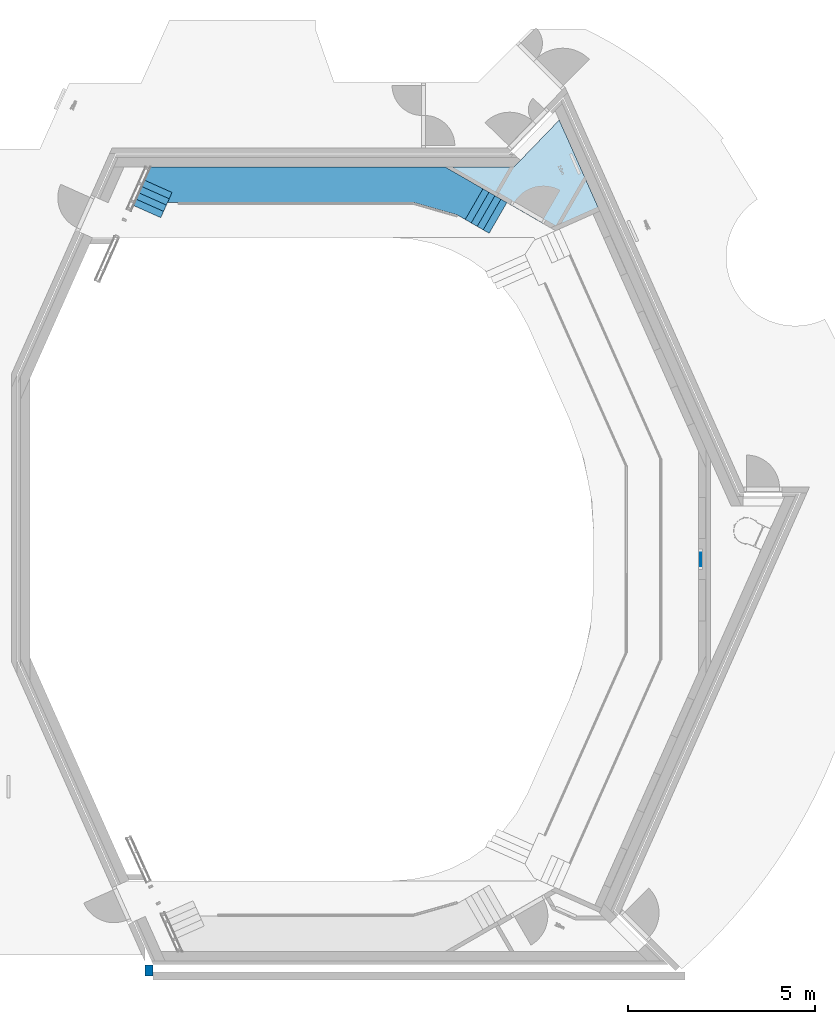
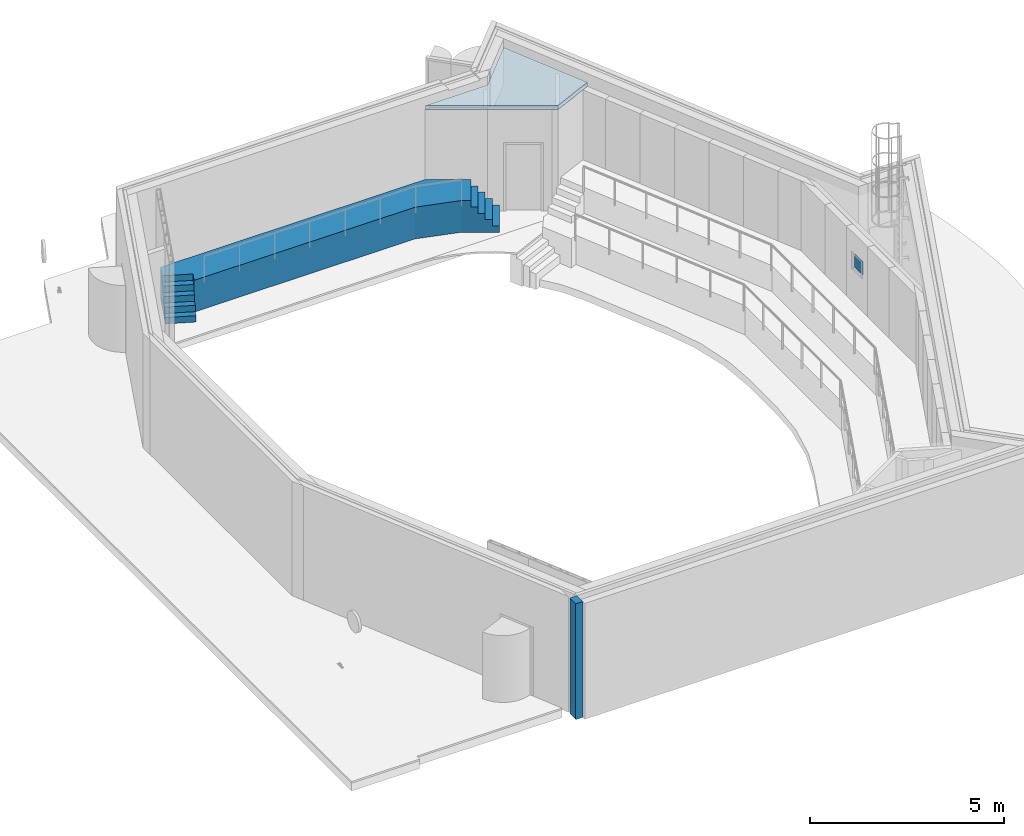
# One storey, part 5 of 16: 2 slabs, 1 plate, 1 wall, 1 element without a shape of its own.
"""IFC2X3 building model written with IfcOpenShell, lengths in millimetres."""

import ifcopenshell
import ifcopenshell.guid

model = None  # the IFC model being written
_history = None  # IfcOwnerHistory: only IFC2X3 demands one
_inside = {}  # id of a spatial element -> (the spatial element, [elements in it])
_under = {}  # id of a project, library or spatial element -> (it, [spatial elements below it])
_declared = {}  # id of a project -> (the project, [libraries it declares])
_typed = {}  # id of a type object -> (the type object, [elements of that type])
_made_of = {}  # id of a material, layer set ... -> (it, [elements and type objects made of it])


def new_model(schema):
    """Start an empty IFC model of exactly this schema.

    Asked for "IFC4X3", IfcOpenShell would pick the latest addendum, in which some entities
    have other attributes; the version numbers below select the first issue.
    IFC2X3 requires an IfcOwnerHistory on every rooted entity: one is made here for all.
    """
    global model, _history
    if schema == "IFC4X3":
        model = ifcopenshell.file(schema_version=(4, 3, 0, 0))
    else:
        model = ifcopenshell.file(schema=schema)
    _inside.clear()
    _under.clear()
    _declared.clear()
    _typed.clear()
    _made_of.clear()
    _history = None
    if model.schema == "IFC2X3":
        org = make("IfcOrganization", Name="unknown")
        user = make(
            "IfcPersonAndOrganization",
            ThePerson=make("IfcPerson", FamilyName="unknown"),
            TheOrganization=org,
        )
        app = make(
            "IfcApplication",
            ApplicationDeveloper=org,
            Version="unknown",
            ApplicationFullName="unknown",
            ApplicationIdentifier="unknown",
        )
        _history = make(
            "IfcOwnerHistory",
            OwningUser=user,
            OwningApplication=app,
            ChangeAction="ADDED",
            CreationDate=0,
        )
    return model


def make(cls, **values):
    """One entity of the class cls with the attributes given. An attribute that is None is left unset."""
    return model.create_entity(
        cls, **{name: value for name, value in values.items() if value is not None}
    )


def entity(cls, *values):
    """Any entity or typed value of the class cls, its attributes in the order of the schema. None: left unset."""
    e = model.create_entity(cls)
    for i, value in enumerate(values):
        if value is not None:
            e[i] = value
    return e


def rooted(cls, **values):
    """An entity with a GlobalId (a new one), such as an element, a storey or a relation."""
    return make(cls, GlobalId=ifcopenshell.guid.new(), OwnerHistory=_history, **values)


def si_unit(unit_type, name, prefix=None):
    """IfcSIUnit, for example si_unit("LENGTHUNIT", "METRE", prefix="MILLI")."""
    return make("IfcSIUnit", UnitType=unit_type, Prefix=prefix, Name=name)


def converted_unit(unit_type, name, factor, base, dimensions=None, offset=None):
    """IfcConversionBasedUnit, such as the inch: factor (a typed value) times the base unit."""
    return make(
        "IfcConversionBasedUnit"
        if offset is None
        else "IfcConversionBasedUnitWithOffset",
        ConversionOffset=offset,
        Dimensions=None
        if dimensions is None
        else entity("IfcDimensionalExponents", *dimensions),
        UnitType=unit_type,
        Name=name,
        ConversionFactor=make(
            "IfcMeasureWithUnit", ValueComponent=factor, UnitComponent=base
        ),
    )


def derived_unit(unit_type, elements):
    """IfcDerivedUnit: a product of units, each with its exponent."""
    return make(
        "IfcDerivedUnit",
        Elements=[
            make("IfcDerivedUnitElement", Unit=unit, Exponent=power)
            for unit, power in elements
        ],
        UnitType=unit_type,
    )


def assignment(units):
    """IfcUnitAssignment: the units of a project."""
    return None if units is None else make("IfcUnitAssignment", Units=units)


def point(xyz):
    """IfcCartesianPoint."""
    return None if xyz is None else make("IfcCartesianPoint", Coordinates=xyz)


def direction(xyz):
    """IfcDirection."""
    return None if xyz is None else make("IfcDirection", DirectionRatios=xyz)


def frame(location, z_axis=None, x_axis=None):
    """IfcAxis2Placement3D, a coordinate frame: its origin and axes. An axis left out is left unset."""
    return make(
        "IfcAxis2Placement3D",
        Location=point(location),
        Axis=direction(z_axis),
        RefDirection=direction(x_axis),
    )


def frame_2d(location, x_axis=None):
    """IfcAxis2Placement2D, a coordinate frame in the plane: its origin and x axis."""
    return make(
        "IfcAxis2Placement2D", Location=point(location), RefDirection=direction(x_axis)
    )


def origin():
    """The frame at (0, 0, 0) with its axes left unset."""
    return frame((0.0, 0.0, 0.0))


def origin_2d_with_axis():
    """The frame at (0, 0) in the plane with the x axis (1, 0) written out."""
    return frame_2d((0.0, 0.0), x_axis=(1.0, 0.0))


def place(relative_to, where):
    """IfcLocalPlacement: puts the frame where relative to a parent placement (None: the world)."""
    return make(
        "IfcLocalPlacement", PlacementRelTo=relative_to, RelativePlacement=where
    )


def context(
    kind, dimensions, precision=None, world=None, true_north=None, identifier=None
):
    """IfcGeometricRepresentationContext, for example the 3D "Model" context."""
    return make(
        "IfcGeometricRepresentationContext",
        ContextIdentifier=identifier,
        ContextType=kind,
        CoordinateSpaceDimension=dimensions,
        Precision=precision,
        WorldCoordinateSystem=world,
        TrueNorth=true_north,
    )


def subcontext(parent, identifier, kind, view, scale=None):
    """IfcGeometricRepresentationSubContext, for example "Body" below "Model"."""
    return make(
        "IfcGeometricRepresentationSubContext",
        ContextIdentifier=identifier,
        ContextType=kind,
        ParentContext=parent,
        TargetScale=scale,
        TargetView=view,
    )


def project(units=None, contexts=None):
    """IfcProject with its units and contexts."""
    return rooted(
        "IfcProject",
        Name="project",
        RepresentationContexts=contexts,
        UnitsInContext=assignment(units),
    )


def spatial(cls, under=None, at=None, **own):
    """A site, building, storey or space (cls), placed at a placement, below another one or the project."""
    s = rooted(cls, ObjectPlacement=at, **own)
    if under is not None:
        _under.setdefault(under.id(), (under, []))[1].append(s)
    return s


def polyline(points):
    """IfcPolyline through the points."""
    return make("IfcPolyline", Points=[point(p) for p in points])


def profile(cls, at=None, kind="AREA", **sizes):
    """A parametric profile (cls). Its sizes go by their IFC names, for example OverallWidth=200.0."""
    return make(cls, ProfileType=kind, Position=at, **sizes)


def rectangle(**sizes):
    """IfcRectangleProfileDef."""
    return profile("IfcRectangleProfileDef", **sizes)


def outline(outer, holes=None, kind="AREA"):
    """IfcArbitraryClosedProfileDef: a profile drawn as a closed curve; with holes, ...WithVoids."""
    if holes is None:
        return make("IfcArbitraryClosedProfileDef", ProfileType=kind, OuterCurve=outer)
    return make(
        "IfcArbitraryProfileDefWithVoids",
        ProfileType=kind,
        OuterCurve=outer,
        InnerCurves=holes,
    )


def extrude(swept, where, along, depth):
    """IfcExtrudedAreaSolid: the profile swept, set in the frame where, extruded along a direction by depth."""
    return make(
        "IfcExtrudedAreaSolid",
        SweptArea=swept,
        Position=where,
        ExtrudedDirection=direction(along),
        Depth=depth,
    )


def clip(a, b, op="DIFFERENCE"):
    """IfcBooleanClippingResult: the solid a cut by the half space b."""
    return make(
        "IfcBooleanClippingResult", Operator=op, FirstOperand=a, SecondOperand=b
    )


def halfspace(plane, agree):
    """IfcHalfSpaceSolid: all space on one side of the plane z = 0 of the frame plane."""
    return make(
        "IfcHalfSpaceSolid",
        BaseSurface=make("IfcPlane", Position=plane),
        AgreementFlag=agree,
    )


def shape(context_of_items, identifier, shape_type, items):
    """IfcShapeRepresentation: the items that make up one representation, for example the "Body"."""
    return make(
        "IfcShapeRepresentation",
        ContextOfItems=context_of_items,
        RepresentationIdentifier=identifier,
        RepresentationType=shape_type,
        Items=items,
    )


def source(mapping_origin, context_of_items, identifier, shape_type, items):
    """IfcRepresentationMap: a shape defined once, which mapped items show again and again."""
    return make(
        "IfcRepresentationMap",
        MappingOrigin=mapping_origin,
        MappedRepresentation=shape(context_of_items, identifier, shape_type, items),
    )


def transform(
    local_origin,
    x_axis=None,
    y_axis=None,
    z_axis=None,
    scale=None,
    scale2=None,
    scale3=None,
    uniform=True,
):
    """IfcCartesianTransformationOperator3D, or its non-uniform kind. x_axis, y_axis, z_axis: its Axis1, 2, 3."""
    if uniform:
        return make(
            "IfcCartesianTransformationOperator3D",
            Axis1=direction(x_axis),
            Axis2=direction(y_axis),
            LocalOrigin=point(local_origin),
            Scale=scale,
            Axis3=direction(z_axis),
        )
    return make(
        "IfcCartesianTransformationOperator3DnonUniform",
        Axis1=direction(x_axis),
        Axis2=direction(y_axis),
        LocalOrigin=point(local_origin),
        Scale=scale,
        Axis3=direction(z_axis),
        Scale2=scale2,
        Scale3=scale3,
    )


def mapped(mapping_source, mapping_target):
    """IfcMappedItem: shows the shape of a source again, moved by a transform."""
    return make(
        "IfcMappedItem", MappingSource=mapping_source, MappingTarget=mapping_target
    )


def material(Name=None, Category=None):
    """IfcMaterial."""
    return make("IfcMaterial", Name=Name, Category=Category)


def layer(
    of_material, thickness, ventilated=None, Name=None, Category=None, Priority=None
):
    """IfcMaterialLayer: one layer of a wall or slab, of a material (None: an air gap)."""
    return make(
        "IfcMaterialLayer",
        Material=of_material,
        LayerThickness=thickness,
        IsVentilated=ventilated,
        Name=Name,
        Category=Category,
        Priority=Priority,
    )


def layer_set(layers, Name=None):
    """IfcMaterialLayerSet."""
    return make("IfcMaterialLayerSet", MaterialLayers=layers, LayerSetName=Name)


def layer_usage(for_layer_set, set_direction, sense, offset, extent=None):
    """IfcMaterialLayerSetUsage: how a layer set lies in its element."""
    return make(
        "IfcMaterialLayerSetUsage",
        ForLayerSet=for_layer_set,
        LayerSetDirection=set_direction,
        DirectionSense=sense,
        OffsetFromReferenceLine=offset,
        ReferenceExtent=extent,
    )


def made_of(thing, what):
    """Note that an element or type object is made of a material, layer set ...; save() writes the relation."""
    if what is not None:
        _made_of.setdefault(what.id(), (what, []))[1].append(thing)
    return thing


def type_object(cls, material=None, **own):
    """A type object (cls), such as IfcWallType, which elements share."""
    return made_of(rooted(cls, **own), material)


def type_shapes(of_type, sources):
    """Give a type object the sources (RepresentationMaps) that its elements show as mapped items."""
    of_type.RepresentationMaps = sources


def element(
    cls,
    number,
    at=None,
    inside=None,
    cuts=None,
    type_object=None,
    material=None,
    context=None,
    identifier="Body",
    shape_type=None,
    held_by="IfcProductDefinitionShape",
    body=None,
    shapes=None,
    **own,
):
    """One element of the class cls, such as IfcWall. Its Tag is "e" and its number.

    at: its placement. inside: the storey or other place that contains it. cuts: it is an
    opening in that element (IfcRelVoidsElement). A single representation is given by context,
    identifier, shape_type and body (its items); several are given by shapes. held_by: the class
    of the entity that holds the representations. save() writes the other relations.
    """
    e = rooted(cls, Tag="e%d" % number, ObjectPlacement=at, **own)
    if body is not None:
        shapes = [shape(context, identifier, shape_type, body)]
    if shapes is not None:
        e.Representation = make(held_by, Representations=shapes)
    if inside is not None:
        _inside.setdefault(inside.id(), (inside, []))[1].append(e)
    if cuts is not None:
        rooted(
            "IfcRelVoidsElement", RelatingBuildingElement=cuts, RelatedOpeningElement=e
        )
    if type_object is not None:
        _typed.setdefault(type_object.id(), (type_object, []))[1].append(e)
    return made_of(e, material)


def aggregate(whole, parts):
    """IfcRelAggregates: a whole, such as a stair, and the parts it consists of."""
    return rooted("IfcRelAggregates", RelatingObject=whole, RelatedObjects=parts)


def save(model, path):
    """Write the relations noted so far, then the file.

    IfcRelAggregates (storeys below a building ...), IfcRelContainedInSpatialStructure (elements
    in a storey), IfcRelDefinesByType, IfcRelAssociatesMaterial and IfcRelDeclares: one each for
    every whole, place, type object, material and project.
    """
    for whole, parts in _under.values():
        aggregate(whole, parts)
    for where, things in _inside.values():
        rooted(
            "IfcRelContainedInSpatialStructure",
            RelatedElements=things,
            RelatingStructure=where,
        )
    for kind, things in _typed.values():
        rooted("IfcRelDefinesByType", RelatedObjects=things, RelatingType=kind)
    for what, things in _made_of.values():
        rooted("IfcRelAssociatesMaterial", RelatedObjects=things, RelatingMaterial=what)
    for by, libraries in _declared.values():
        rooted("IfcRelDeclares", RelatingContext=by, RelatedDefinitions=libraries)
    model.write(path)


model = new_model("IFC2X3")

# Units and contexts
model_context = context("Model", 3, precision=0.01, world=origin(), true_north=direction((6.123031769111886e-17, 1.0)))
body_context = subcontext(model_context, "Body", "Model", "MODEL_VIEW")
ifc_project = project(units=[si_unit("LENGTHUNIT", "METRE", prefix="MILLI"), si_unit("AREAUNIT", "SQUARE_METRE"), si_unit("VOLUMEUNIT", "CUBIC_METRE"), converted_unit("PLANEANGLEUNIT", "DEGREE", entity("IfcRatioMeasure", 0.017453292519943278), si_unit("PLANEANGLEUNIT", "RADIAN"), dimensions=[0, 0, 0, 0, 0, 0, 0]), si_unit("MASSUNIT", "GRAM", prefix="KILO"), derived_unit("MASSDENSITYUNIT", [(si_unit("MASSUNIT", "GRAM", prefix="KILO"), 1), (si_unit("LENGTHUNIT", "METRE"), -3)]), derived_unit("MOMENTOFINERTIAUNIT", [(si_unit("LENGTHUNIT", "METRE"), 4)]), si_unit("TIMEUNIT", "SECOND"), si_unit("FREQUENCYUNIT", "HERTZ"), si_unit("THERMODYNAMICTEMPERATUREUNIT", "DEGREE_CELSIUS"), derived_unit("THERMALTRANSMITTANCEUNIT", [(si_unit("MASSUNIT", "GRAM", prefix="KILO"), 1), (si_unit("THERMODYNAMICTEMPERATUREUNIT", "KELVIN"), -1), (si_unit("TIMEUNIT", "SECOND"), -3)]), derived_unit("VOLUMETRICFLOWRATEUNIT", [(si_unit("LENGTHUNIT", "METRE"), 3), (si_unit("TIMEUNIT", "SECOND"), -1)]), derived_unit("MASSFLOWRATEUNIT", [(si_unit("MASSUNIT", "GRAM", prefix="KILO"), 1), (si_unit("TIMEUNIT", "SECOND"), -1)]), derived_unit("ROTATIONALFREQUENCYUNIT", [(si_unit("TIMEUNIT", "SECOND"), -1)]), si_unit("ELECTRICCURRENTUNIT", "AMPERE"), si_unit("ELECTRICVOLTAGEUNIT", "VOLT"), si_unit("POWERUNIT", "WATT"), si_unit("FORCEUNIT", "NEWTON", prefix="KILO"), si_unit("ILLUMINANCEUNIT", "LUX"), si_unit("LUMINOUSFLUXUNIT", "LUMEN"), si_unit("LUMINOUSINTENSITYUNIT", "CANDELA"), derived_unit("USERDEFINED", [(si_unit("MASSUNIT", "GRAM", prefix="KILO"), -1), (si_unit("LENGTHUNIT", "METRE"), -2), (si_unit("TIMEUNIT", "SECOND"), 3), (si_unit("LUMINOUSFLUXUNIT", "LUMEN"), 1)]), derived_unit("SOUNDPOWERUNIT", [(si_unit("MASSUNIT", "GRAM", prefix="KILO"), 1), (si_unit("LENGTHUNIT", "METRE"), 2), (si_unit("TIMEUNIT", "SECOND"), -3)]), derived_unit("SOUNDPRESSUREUNIT", [(si_unit("MASSUNIT", "GRAM", prefix="KILO"), 1), (si_unit("LENGTHUNIT", "METRE"), -1), (si_unit("TIMEUNIT", "SECOND"), -2)]), derived_unit("LINEARVELOCITYUNIT", [(si_unit("LENGTHUNIT", "METRE"), 1), (si_unit("TIMEUNIT", "SECOND"), -1)]), si_unit("PRESSUREUNIT", "PASCAL"), derived_unit("USERDEFINED", [(si_unit("LENGTHUNIT", "METRE"), -2), (si_unit("MASSUNIT", "GRAM", prefix="KILO"), 1), (si_unit("TIMEUNIT", "SECOND"), -2)]), derived_unit("LINEARFORCEUNIT", [(si_unit("MASSUNIT", "GRAM", prefix="KILO"), 1), (si_unit("LENGTHUNIT", "METRE"), 1), (si_unit("TIMEUNIT", "SECOND"), -2), (si_unit("LENGTHUNIT", "METRE"), -1)]), derived_unit("PLANARFORCEUNIT", [(si_unit("MASSUNIT", "GRAM", prefix="KILO"), 1), (si_unit("LENGTHUNIT", "METRE"), 1), (si_unit("TIMEUNIT", "SECOND"), -2), (si_unit("LENGTHUNIT", "METRE"), -2)])], contexts=[model_context])

# Site, building, storey
site_placement = place(None, frame((-10000.0, -10000.0, 0.0)))
site = spatial("IfcSite", under=ifc_project, at=site_placement, Name="Default", CompositionType="ELEMENT")
building_placement = place(site_placement, origin())
building = spatial("IfcBuilding", under=site, at=building_placement, CompositionType="ELEMENT")
storey_placement = place(building_placement, frame((0.0, 0.0, 9000.0)))
storey = spatial("IfcBuildingStorey", under=building, at=storey_placement, Name="02 2e verdieping", CompositionType="ELEMENT", Elevation=9000.0)

# Slabs
ifc_material_1 = material(Name="20_APX_ontwerpmateriaal grijs")
slab_type_1 = type_object("IfcSlabType", Name="Balkon zijkanten:Balkon zijkanten", PredefinedType="FLOOR", material=ifc_material_1)
slab_1_placement = place(storey_placement, origin())
element("IfcSlab", 1, at=slab_1_placement, inside=storey, type_object=slab_type_1, Name="Balkon zijkanten:Balkon zijkanten", ObjectType="Balkon zijkanten:Balkon zijkanten", PredefinedType="FLOOR", context=body_context, shape_type="SweptSolid", body=[
    extrude(outline(polyline([(-400.00368685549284, -92.51226631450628), (399.9923387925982, -92.51226631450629), (400.003685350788, 92.48773333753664), (-399.99233728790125, 92.53679929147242), (-400.00368685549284, -92.51226631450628)])), frame((29177.89392115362, 48543.26067670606, 0.0), z_axis=(0.0, 0.0, 1.0), x_axis=(0.9135454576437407, -0.40673664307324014, 0.0)), (0.0, 0.0, 1.0), 800.0),
    extrude(outline(polyline([(-475.0107430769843, -92.51456650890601), (474.99939473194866, -92.51456650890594), (475.01074129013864, 92.4854331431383), (-474.99939294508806, 92.54369987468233), (-475.0107430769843, -92.51456650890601)])), frame((38234.945541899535, 47827.703549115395, 0.0), z_axis=(0.0, 0.0, 1.0), x_axis=(0.49998418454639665, 0.866034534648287, 0.0)), (0.0, 0.0, 1.0), 199.99999999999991),
    extrude(outline(polyline([(-475.0090538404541, -92.51456645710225), (474.99770549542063, -92.51456645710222), (475.0090520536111, 92.48543319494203), (-474.9977037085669, 92.5436997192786), (-475.0090538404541, -92.51456645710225)])), frame((38074.729997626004, 47920.20208616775, 0.0), z_axis=(0.0, 0.0, 1.0), x_axis=(0.4999841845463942, 0.8660345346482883, 0.0)), (0.0, 0.0, 1.0), 400.0),
    extrude(outline(polyline([(-475.0073646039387, -92.51456640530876), (474.9960162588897, -92.51456640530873), (475.00736281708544, 92.4854332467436), (-474.9960144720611, 92.5436995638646), (-475.0073646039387, -92.51456640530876)])), frame((37914.51445365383, 48012.70062304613, 0.0), z_axis=(0.0, 0.0, 1.0), x_axis=(0.49998418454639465, 0.8660345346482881, 0.0)), (0.0, 0.0, 1.0), 600.0),
    extrude(outline(polyline([(-475.0056753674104, -92.51456635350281), (474.99432702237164, -92.51456635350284), (475.00567358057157, 92.48543329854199), (-474.9943252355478, 92.543699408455), (-475.0056753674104, -92.51456635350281)])), frame((37754.29890968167, 48105.19915992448, 0.0), z_axis=(0.0, 0.0, 1.0), x_axis=(0.4999841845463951, 0.8660345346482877, 0.0)), (0.0, 0.0, 1.0), 800.0),
    extrude(outline(polyline([(-400.00368685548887, -92.51226631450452), (399.9923387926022, -92.51226631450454), (400.0036853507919, 92.4877333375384), (-399.9923372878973, 92.53679929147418), (-400.00368685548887, -92.51226631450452)])), frame((28952.155084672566, 48036.24294866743, 0.0), z_axis=(0.0, 0.0, 1.0), x_axis=(0.9135454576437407, -0.40673664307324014, 0.0)), (0.0, 0.0, 1.0), 200.0),
    extrude(outline(polyline([(-400.00368685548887, -92.51226631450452), (399.9923387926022, -92.51226631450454), (400.0036853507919, 92.4877333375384), (-399.9923372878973, 92.53679929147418), (-400.00368685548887, -92.51226631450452)])), frame((29027.40136349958, 48205.24885801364, 0.0), z_axis=(0.0, 0.0, 1.0), x_axis=(0.9135454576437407, -0.40673664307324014, 0.0)), (0.0, 0.0, 1.0), 400.0),
    extrude(outline(polyline([(-400.00368685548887, -92.51226631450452), (399.9923387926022, -92.51226631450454), (400.0036853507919, 92.4877333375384), (-399.9923372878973, 92.53679929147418), (-400.00368685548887, -92.51226631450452)])), frame((29102.647642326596, 48374.254767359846, 0.0), z_axis=(0.0, 0.0, 1.0), x_axis=(0.9135454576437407, -0.40673664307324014, 0.0)), (0.0, 0.0, 1.0), 600.0),
    extrude(outline(polyline([(-3289.972503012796, -693.0155447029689), (4590.107139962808, -693.0155447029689), (4751.090924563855, -331.4997188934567), (4020.289354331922, -6.072188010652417), (4137.4097177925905, 256.98445529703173), (-2442.845027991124, 256.98445529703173), (-3620.126566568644, 594.5645042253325), (-3835.476519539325, 718.8968575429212), (-4310.476519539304, -103.82727605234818), (-3289.972503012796, -693.0155447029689)])), frame((33601.222135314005, 48458.984455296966, 0.0), z_axis=(0.0, 0.0, 1.0), x_axis=(-1.0, 0.0, 0.0)), (0.0, 0.0, 1.0), 1000.0000000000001),
])
ifc_material_2 = material(Name="NLRS_gipsplaat")
ifc_layer_1 = layer(ifc_material_2, 12.5)
ifc_layer_2 = layer(ifc_material_2, 12.5)
ifc_material_3 = material(Name="NLRS_aluminium C-profielen met isolatie")
ifc_layer_3 = layer(ifc_material_3, 75.0)
ifc_layer_4 = layer(ifc_material_2, 12.5)
ifc_layer_5 = layer(ifc_material_2, 12.5)
ifc_layer_set_1 = layer_set([ifc_layer_1, ifc_layer_2, ifc_layer_3, ifc_layer_4, ifc_layer_5], Name="Floor:NLRS_43_FL_gipsmontage 125mm_ags")
ifc_layer_usage_1 = layer_usage(ifc_layer_set_1, "AXIS3", "POSITIVE", 0.0)
slab_type_2 = type_object("IfcSlabType", Name="Floor:NLRS_43_FL_gipsmontage 125mm_ags", PredefinedType="FLOOR")
slab_2_placement = place(storey_placement, frame((36891.19463832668, 28125.0, 3200.0)))
element("IfcSlab", 2, at=slab_2_placement, inside=storey, type_object=slab_type_2, material=ifc_layer_usage_1, Name="Floor:NLRS_43_FL_gipsmontage 125mm_ags", ObjectType="Floor:NLRS_43_FL_gipsmontage 125mm_ags", PredefinedType="FLOOR", context=body_context, shape_type="SweptSolid", body=[
    extrude(outline(polyline([(-372.0013388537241, 8787.503583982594), (2595.1190709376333, 10500.571351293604), (740.0500324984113, 10500.571351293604), (-469.2280474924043, 11753.81240396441), (-1555.4036256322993, 9314.222112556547), (-372.0013388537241, 8787.503583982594)])), frame((2595.1190709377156, 10526.428649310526, 125.0), z_axis=(0.0, 0.0, -1.0), x_axis=(-1.0, 0.0, 0.0)), (0.0, 0.0, 1.0), 124.99999999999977),
])

# Curtain wall, plate
curtain_wall_type = type_object("IfcCurtainWallType", Name="Curtain Wall:NLRS_32_CWA_houten binnenkozijnen ts90_ags", PredefinedType="NOTDEFINED")
curtain_wall_placement = place(storey_placement, frame((0.0, 0.0, -9000.0)))
curtain_wall = element("IfcCurtainWall", 3, at=curtain_wall_placement, inside=storey, type_object=curtain_wall_type, Name="Curtain Wall:NLRS_32_CWA_houten binnenkozijnen ts90_ags", ObjectType="Curtain Wall:NLRS_32_CWA_houten binnenkozijnen ts90_ags")
ifc_material_4 = material(Name="NLRS_glas")
plate_type = type_object("IfcPlateType", Name="System Panel:NLRS_31_CWP_geïsoleerd glas 25mm_ags", PredefinedType="CURTAIN_PANEL", material=ifc_material_4)
shared_shape = source(origin(), body_context, "Body", "SweptSolid", [
    extrude(rectangle(XDim=25.0, YDim=415.99999999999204, at=origin_2d_with_axis()), frame((0.0, 0.0, 0.0), z_axis=(0.0, 0.0, 1.0), x_axis=(0.0, 1.0, 0.0)), (0.0, 0.0, 1.0), 416.00000000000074),
])
type_shapes(plate_type, [shared_shape])
plate_placement = place(curtain_wall_placement, frame((43742.0, 38638.49999969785, 11097.0), z_axis=(0.0, 0.0, 1.0), x_axis=(0.0, -1.0, 0.0)))
plate = element("IfcPlate", 4, at=plate_placement, type_object=plate_type, material=ifc_material_4, Name="System Panel:NLRS_31_CWP_geïsoleerd glas 25mm_ags", ObjectType="System Panel:NLRS_31_CWP_geïsoleerd glas 25mm_ags", context=body_context, shape_type="MappedRepresentation", body=[
    mapped(shared_shape, transform((0.0, 0.0, 0.0), scale=1.0)),
])
aggregate(curtain_wall, [plate])

# Wall
ifc_material_5 = material(Name="NLRS_metselwerk schoonwerk")
ifc_layer_6 = layer(ifc_material_5, 210.0)
ifc_layer_set_2 = layer_set([ifc_layer_6], Name="Basic Wall:NLRS_21_WA_metselwerk 210mm_ags")
ifc_layer_usage_2 = layer_usage(ifc_layer_set_2, "AXIS2", "NEGATIVE", 105.0)
wall_type = type_object("IfcWallType", Name="Basic Wall:NLRS_21_WA_metselwerk 210mm_ags", PredefinedType="STANDARD", material=ifc_layer_set_2)
wall_placement = place(storey_placement, frame((28963.08237584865, 27770.014353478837, -50.0), z_axis=(0.0, 0.0, 1.0), x_axis=(0.0, -1.0, 0.0)))
element("IfcWallStandardCase", 5, at=wall_placement, inside=storey, type_object=wall_type, material=ifc_layer_usage_2, Name="Basic Wall:NLRS_21_WA_metselwerk 210mm_ags", ObjectType="Basic Wall:NLRS_21_WA_metselwerk 210mm_ags", context=body_context, shape_type="Clipping", body=[
    clip(extrude(rectangle(XDim=300.0143537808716, YDim=209.9999999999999, at=frame_2d((150.0071768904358, 2.1671553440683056e-12), x_axis=(-1.0, 0.0))), origin(), (0.0, 0.0, 1.0), 3649.9999999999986), halfspace(frame((0.0, 0.0, -50.0)), True)),
])

save(model, "model.ifc")
